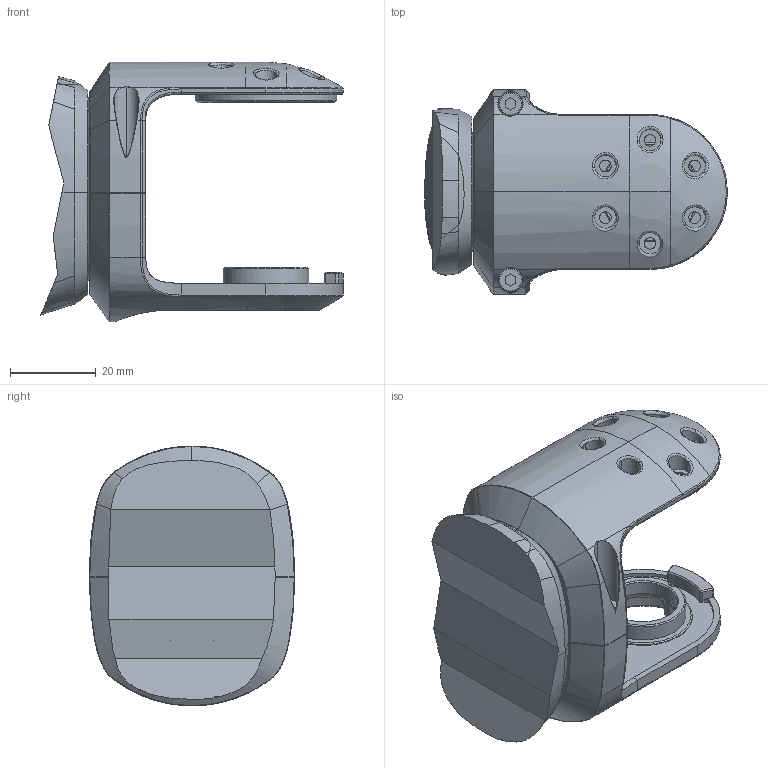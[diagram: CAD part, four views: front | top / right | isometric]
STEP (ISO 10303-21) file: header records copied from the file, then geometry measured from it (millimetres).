
FILE_DESCRIPTION (( 'STEP AP203' ), '1' );
FILE_NAME ('G1よ耦唳A&B藺傷蚾饜芞.STEP', '2024-11-27T06:20:36', ( 'Opium' ), ( 'YC.TEC' ), 'SwSTEP 2.0', 'SolidWorks 2023', '' );
FILE_SCHEMA (( 'CONFIG_CONTROL_DESIGN' ));
Length unit declared in the file: millimetre
Products named in the file (6): G1旗舰版A&B末端装配图; G1旗舰版A&B末端抱箍一_默认; M3螺钉长度10mm_默认; G1旗舰版A&B末端执行器(示意)_默认; G1旗舰版A&B末端抱箍二_默认; G1旗舰版A&B末端法兰块_默认
Assembly tree (10 placements, depth 2):
  G1旗舰版A&B末端装配图
    G1旗舰版A&B末端法兰块_默认
    G1旗舰版A&B末端抱箍一_默认
    G1旗舰版A&B末端抱箍二_默认
    G1旗舰版A&B末端执行器(示意)_默认
    M3螺钉长度10mm_默认  x6
Bounding box: 70.46 x 47.73 x 60.49 mm (x, y, z)
Volume: 47843.1 mm3; surface area: 26947.6 mm2
Topology: 10 solids, 12 shells, 960 faces, 2364 edges, 1435 vertices
Faces by surface type: bspline 359, cylinder 272, plane 218, cone 63, torus 44, sphere 4
Full cylindrical faces by diameter (mm): 2.5 x4, 3 x6, 3.3 x4, 3.97 x4, 4 x4, 5.5 x6, 6 x4
Entity records: 50523 total; most frequent: CARTESIAN_POINT 33585, ORIENTED_EDGE 4244, EDGE_CURVE 2122, DIRECTION 2047, VERTEX_POINT 1325, B_SPLINE_CURVE_WITH_KNOTS 1162, EDGE_LOOP 991, FACE_OUTER_BOUND 909
